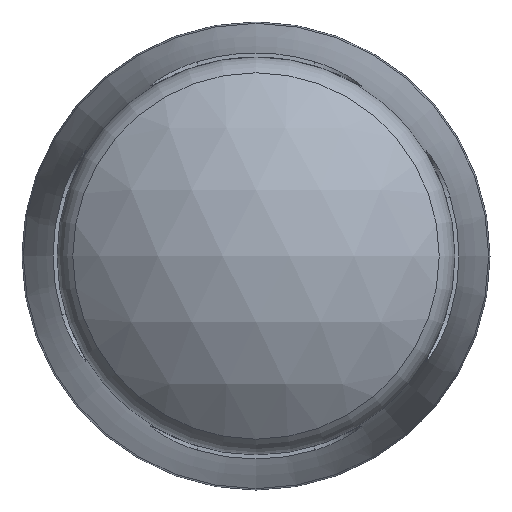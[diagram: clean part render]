
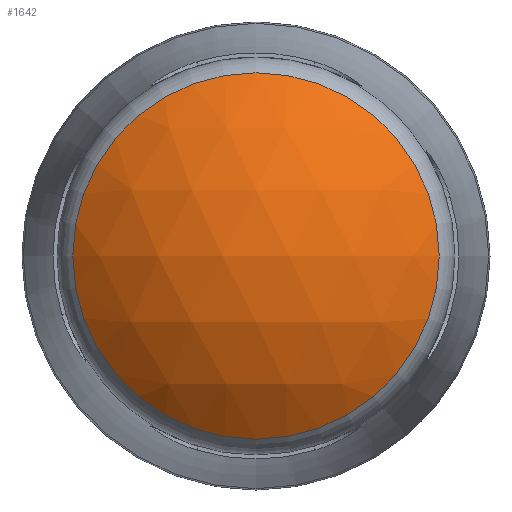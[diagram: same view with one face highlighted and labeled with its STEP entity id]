
A CAD part, left-side view. The second image highlights one B-rep face of the part: STEP entity #1642.
In plain terms, the highlighted spherical face has radius 41.195 mm.
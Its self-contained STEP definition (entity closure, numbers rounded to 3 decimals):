
#14=SPHERICAL_SURFACE('',#1819,41.195);
#202=FACE_OUTER_BOUND('',#298,.T.);
#298=EDGE_LOOP('',(#1188,#1189));
#597=CIRCLE('',#1816,27.407);
#598=CIRCLE('',#1817,27.407);
#713=VERTEX_POINT('',#2907);
#714=VERTEX_POINT('',#2909);
#893=EDGE_CURVE('',#713,#714,#597,.T.);
#894=EDGE_CURVE('',#714,#713,#598,.T.);
#1188=ORIENTED_EDGE('',*,*,#894,.F.);
#1189=ORIENTED_EDGE('',*,*,#893,.F.);
#1642=ADVANCED_FACE('',(#202),#14,.T.);
#1816=AXIS2_PLACEMENT_3D('',#2910,#2118,#2119);
#1817=AXIS2_PLACEMENT_3D('',#2911,#2120,#2121);
#1819=AXIS2_PLACEMENT_3D('',#2913,#2124,#2125);
#2118=DIRECTION('center_axis',(1.,0.,0.));
#2119=DIRECTION('ref_axis',(0.,-1.,0.));
#2120=DIRECTION('center_axis',(1.,0.,0.));
#2121=DIRECTION('ref_axis',(0.,-1.,0.));
#2124=DIRECTION('center_axis',(0.,0.,1.));
#2125=DIRECTION('ref_axis',(-1.,-0.004,0.));
#2907=CARTESIAN_POINT('',(10.44,0.,27.407));
#2909=CARTESIAN_POINT('',(10.44,27.407,0.));
#2910=CARTESIAN_POINT('Origin',(10.44,0.,0.));
#2911=CARTESIAN_POINT('Origin',(10.44,0.,0.));
#2913=CARTESIAN_POINT('Origin',(41.195,0.,0.));
